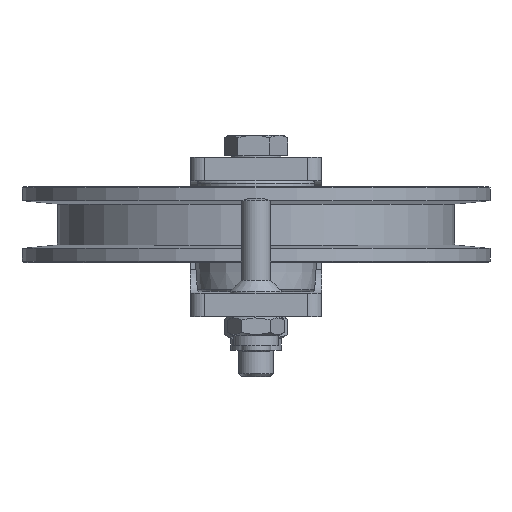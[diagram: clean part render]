
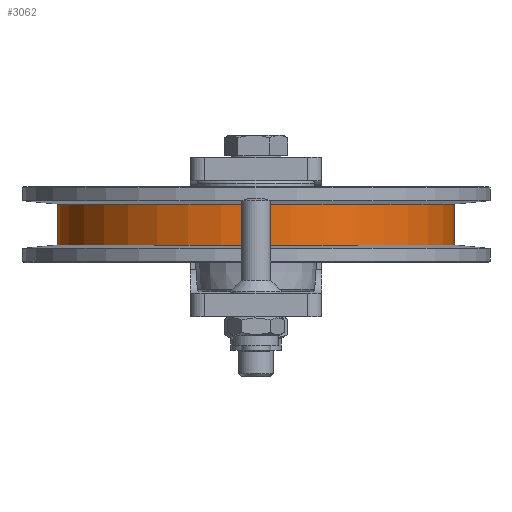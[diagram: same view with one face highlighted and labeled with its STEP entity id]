
A CAD part, left-side view. The second image highlights one B-rep face of the part: STEP entity #3062.
In plain terms, the highlighted cylindrical face has radius 68 mm (diameter 136 mm), a full revolution.
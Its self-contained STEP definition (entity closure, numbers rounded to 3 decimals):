
#372=CIRCLE('',#3418,68.);
#373=CIRCLE('',#3420,68.);
#442=CYLINDRICAL_SURFACE('',#3419,68.);
#568=FACE_OUTER_BOUND('',#779,.T.);
#779=EDGE_LOOP('',(#2557,#2558,#2559,#2560));
#1008=LINE('',#5363,#1223);
#1223=VECTOR('',#4020,68.);
#1469=VERTEX_POINT('',#5357);
#1470=VERTEX_POINT('',#5361);
#1843=EDGE_CURVE('',#1469,#1469,#372,.T.);
#1845=EDGE_CURVE('',#1470,#1470,#373,.T.);
#1846=EDGE_CURVE('',#1470,#1469,#1008,.T.);
#2557=ORIENTED_EDGE('',*,*,#1845,.F.);
#2558=ORIENTED_EDGE('',*,*,#1846,.T.);
#2559=ORIENTED_EDGE('',*,*,#1843,.T.);
#2560=ORIENTED_EDGE('',*,*,#1846,.F.);
#3062=ADVANCED_FACE('',(#568),#442,.T.);
#3418=AXIS2_PLACEMENT_3D('',#5358,#4013,#4014);
#3419=AXIS2_PLACEMENT_3D('',#5360,#4016,#4017);
#3420=AXIS2_PLACEMENT_3D('',#5362,#4018,#4019);
#4013=DIRECTION('center_axis',(-1.,0.,0.));
#4014=DIRECTION('ref_axis',(0.,-1.,0.));
#4016=DIRECTION('center_axis',(-1.,0.,0.));
#4017=DIRECTION('ref_axis',(0.,-1.,0.));
#4018=DIRECTION('center_axis',(-1.,0.,0.));
#4019=DIRECTION('ref_axis',(0.,-1.,0.));
#4020=DIRECTION('',(1.,0.,0.));
#5357=CARTESIAN_POINT('',(7.,68.,0.));
#5358=CARTESIAN_POINT('Origin',(7.,0.,0.));
#5360=CARTESIAN_POINT('Origin',(0.,0.,0.));
#5361=CARTESIAN_POINT('',(-7.,68.,0.));
#5362=CARTESIAN_POINT('Origin',(-7.,0.,0.));
#5363=CARTESIAN_POINT('',(0.,68.,0.));
